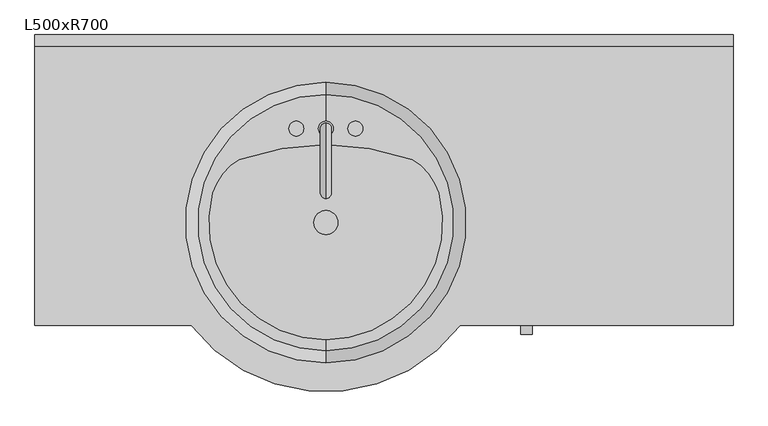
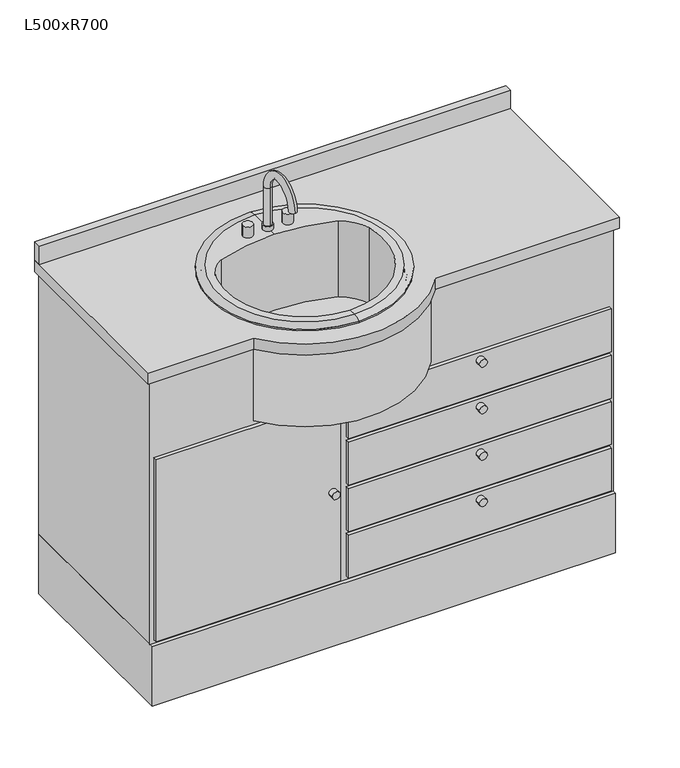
"""IFC4 building model written with IfcOpenShell, lengths in millimetres: furniture geometry, Gabinete Banheiro Vanity 2621 : L500xR700."""

from ifc_helpers import new_model, si_unit, point, frame, frame_2d, origin, origin_with_axes, place, context, project, spatial, polyline, circle_curve, ellipse_curve, trimmed, segment, composite_curve, outline, extrude, source, transform, mapped, element, save
from ifc_brep_helpers import plane_surface, cylinder_surface, revolved_surface, advanced_brep


def l500xr700_7699340b(model_context):
    return source(origin(), model_context, "Body", "SolidModel", [
        advanced_brep(
        [(94.9377049, -170.6504315, 909.525), (94.9377049, -151.6004315, 909.525), (94.9377049, -170.6504315, 1022.2375), (94.9377049, -151.6004315, 1022.2375), (94.9377049, -262.4406462, 1022.2375), (94.9377049, -281.4906462, 1022.2375)],
        [
            (0, 1, circle_curve(frame((94.9377049, -161.1254315, 909.525), z_axis=(0.0, 0.0, -1.0), x_axis=(0.0, 1.0, 0.0)), 9.525)),
            (1, 0, circle_curve(frame((94.9377049, -161.1254315, 909.525), z_axis=(0.0, 0.0, -1.0), x_axis=(0.0, 1.0, 0.0)), 9.525)),
            (0, 2),
            (2, 3, circle_curve(frame((94.9377049, -161.1254315, 1022.2375), z_axis=(0.0, 0.0, -1.0), x_axis=(0.0, 1.0, 0.0)), 9.525)),
            (3, 1),
            (3, 2, circle_curve(frame((94.9377049, -161.1254315, 1022.2375), z_axis=(0.0, 0.0, -1.0), x_axis=(0.0, 1.0, 0.0)), 9.525)),
            (4, 5, circle_curve(frame((94.9377049, -271.9656462, 1022.2375), z_axis=(0.0, 0.0, -1.0), x_axis=(0.0, -1.0, 0.0)), 9.525)),
            (5, 4, circle_curve(frame((94.9377049, -271.9656462, 1022.2375), z_axis=(0.0, 0.0, -1.0), x_axis=(0.0, -1.0, 0.0)), 9.525)),
            (5, 3, circle_curve(frame((94.9377049, -216.5455388, 1022.2375), z_axis=(-1.0, 0.0, 0.0), x_axis=(0.0, 1.0, 0.0)), 64.9451073)),
            (2, 4, circle_curve(frame((94.9377049, -216.5455388, 1022.2375), z_axis=(1.0, 0.0, 0.0), x_axis=(0.0, 1.0, 0.0)), 45.8951073)),
        ],
        [
            plane_surface(frame((94.9377049, -170.6504315, 909.525), z_axis=(0.0, 0.0, -1.0), x_axis=(1.0, 0.0, 0.0))),
            cylinder_surface(frame((94.9377049, -161.1254315, 909.525), z_axis=(0.0, 0.0, -1.0), x_axis=(0.0, 1.0, 0.0)), 9.525),
            plane_surface(frame((94.9377049, -216.5455388, 1022.2375), z_axis=(0.0, 0.0, -1.0), x_axis=(0.0, -1.0, 0.0))),
            revolved_surface(trimmed(ellipse_curve(frame((94.9377049, -161.1254315, 1022.2375), z_axis=(0.0, 0.0, -1.0), x_axis=(0.0, 1.0, 0.0)), 9.525, 9.525), [point((94.9377049, -170.6504315, 1022.2375))], [point((94.9377049, -151.6004315, 1022.2375))], True, "CARTESIAN"), (94.9377049, -216.5455388, 1022.2375), (1.0, 0.0, 0.0)),
            revolved_surface(trimmed(ellipse_curve(frame((94.9377049, -161.1254315, 1022.2375), z_axis=(0.0, 0.0, -1.0), x_axis=(0.0, 1.0, 0.0)), 9.525, 9.525), [point((94.9377049, -151.6004315, 1022.2375))], [point((94.9377049, -170.6504315, 1022.2375))], True, "CARTESIAN"), (94.9377049, -216.5455388, 1022.2375), (1.0, 0.0, 0.0)),
        ],
        [
            (0, [[1, 2]]),
            (1, [[-1, 3, 4, 5]]),
            (1, [[-2, -5, 6, -3]]),
            (2, [[7, 8]]),
            (3, [[9, -4, 10, -8]]),
            (4, [[-10, -6, -9, -7]]),
        ],
    ),
        extrude(outline(composite_curve([segment(trimmed(circle_curve(frame_2d((94.9377049, -161.1254315)), 12.7), [point((82.2377049, -161.1254315))], [point((107.6377049, -161.1254315))], False, "CARTESIAN"), True, "CONTINUOUS"), segment(trimmed(circle_curve(frame_2d((94.9377049, -161.1254315)), 12.7), [point((107.6377049, -161.1254315))], [point((82.2377049, -161.1254315))], False, "CARTESIAN"), True, "CONTINUOUS")], self_intersect=False)), frame((0.0, 0.0, 909.525), z_axis=(0.0, 0.0, 1.0), x_axis=(1.0, 0.0, 0.0)), (0.0, 0.0, 1.0), 12.2352909),
        extrude(outline(composite_curve([segment(trimmed(circle_curve(frame_2d((44.1377049, -161.1254315)), 12.7), [point((31.4377049, -161.1254315))], [point((56.8377049, -161.1254315))], False, "CARTESIAN"), True, "CONTINUOUS"), segment(trimmed(circle_curve(frame_2d((44.1377049, -161.1254315)), 12.7), [point((56.8377049, -161.1254315))], [point((31.4377049, -161.1254315))], False, "CARTESIAN"), True, "CONTINUOUS")], self_intersect=False)), frame((0.0, 0.0, 909.525), z_axis=(0.0, 0.0, 1.0), x_axis=(1.0, 0.0, 0.0)), (0.0, 0.0, 1.0), 28.575),
        extrude(outline(composite_curve([segment(trimmed(circle_curve(frame_2d((145.7377049, -161.1254315)), 12.7), [point((133.0377049, -161.1254315))], [point((158.4377049, -161.1254315))], False, "CARTESIAN"), True, "CONTINUOUS"), segment(trimmed(circle_curve(frame_2d((145.7377049, -161.1254315)), 12.7), [point((158.4377049, -161.1254315))], [point((133.0377049, -161.1254315))], False, "CARTESIAN"), True, "CONTINUOUS")], self_intersect=False)), frame((0.0, 0.0, 909.525), z_axis=(0.0, 0.0, 1.0), x_axis=(1.0, 0.0, 0.0)), (0.0, 0.0, 1.0), 28.575),
        extrude(outline(composite_curve([segment(trimmed(circle_curve(frame_2d((94.9377049, -323.0504315)), 20.6375), [point((74.3002049, -323.0504315))], [point((115.5752049, -323.0504315))], False, "CARTESIAN"), True, "CONTINUOUS"), segment(trimmed(circle_curve(frame_2d((94.9377049, -323.0504315)), 20.6375), [point((115.5752049, -323.0504315))], [point((74.3002049, -323.0504315))], False, "CARTESIAN"), True, "CONTINUOUS")], self_intersect=False)), frame((0.0, 0.0, 684.1), z_axis=(0.0, 0.0, 1.0), x_axis=(1.0, 0.0, 0.0)), (0.0, 0.0, 1.0), 21.1842611),
        advanced_brep(
        [(94.9377049, -543.6051593, 909.525), (94.9377049, -102.4957037, 909.525), (94.9377049, -81.7504315, 903.96875), (94.9377049, -564.3504315, 903.96875), (94.9377049, -524.4587205, 909.525), (-99.884377, -271.9656462, 909.525), (-53.8675289, -214.1320102, 909.525), (94.9377049, -188.9519451, 909.525), (243.7429387, -214.1320102, 909.525), (289.7597868, -271.9656462, 909.525), (94.9377049, -515.3445528, 684.1), (94.9377049, -130.7563102, 684.1), (94.9377049, -323.0504315, 684.1), (94.9377049, -535.9008861, 705.2842611), (94.9377049, -110.1999769, 705.2842611), (94.9377049, -552.4441815, 900.0), (94.9377049, -93.6566815, 900.0), (94.9377049, -564.3504315, 900.0), (94.9377049, -81.7504315, 900.0), (243.7429387, -214.1320102, 705.2842611), (-53.8675289, -214.1320102, 705.2842611), (-99.884377, -271.9656462, 705.2842611), (289.7597868, -271.9656462, 705.2842611)],
        [
            (0, 1, circle_curve(frame((94.9377049, -323.0504315, 909.525), z_axis=(0.0, 0.0, -1.0), x_axis=(0.0, 1.0, 0.0)), 220.5547278)),
            (1, 2, circle_curve(frame((94.9377049, -98.7806884, 881.889434), z_axis=(-1.0, 0.0, 0.0), x_axis=(0.0, 1.0, 0.0)), 27.8841505)),
            (2, 3, circle_curve(frame((94.9377049, -323.0504315, 903.96875), z_axis=(0.0, 0.0, 1.0), x_axis=(0.0, 1.0, 0.0)), 241.3)),
            (3, 0, circle_curve(frame((94.9377049, -547.3201745, 881.889434), z_axis=(-1.0, 0.0, 0.0), x_axis=(0.0, -1.0, 0.0)), 27.8841505)),
            (1, 0, circle_curve(frame((94.9377049, -323.0504315, 909.525), z_axis=(0.0, 0.0, -1.0), x_axis=(0.0, 1.0, 0.0)), 220.5547278)),
            (3, 2, circle_curve(frame((94.9377049, -323.0504315, 903.96875), z_axis=(0.0, 0.0, 1.0), x_axis=(0.0, 1.0, 0.0)), 241.3)),
            (0, 4),
            (4, 5, circle_curve(frame((94.9377049, -323.0504315, 909.525), z_axis=(0.0, 0.0, -1.0), x_axis=(1.0, 0.0, 0.0)), 201.408289)),
            (5, 6, circle_curve(frame((-0.3450667, -303.9426335, 909.525), z_axis=(0.0, 0.0, -1.0), x_axis=(1.0, 0.0, 0.0)), 104.5495194)),
            (6, 7, circle_curve(frame((94.9377049, -641.2349961, 909.525), z_axis=(0.0, 0.0, -1.0), x_axis=(1.0, 0.0, 0.0)), 452.283051)),
            (7, 1),
            (7, 8, circle_curve(frame((94.9377049, -641.2349961, 909.525), z_axis=(0.0, 0.0, -1.0), x_axis=(1.0, 0.0, 0.0)), 452.283051)),
            (8, 9, circle_curve(frame((190.2204765, -303.9426335, 909.525), z_axis=(0.0, 0.0, -1.0), x_axis=(1.0, 0.0, 0.0)), 104.5495194)),
            (9, 4, circle_curve(frame((94.9377049, -323.0504315, 909.525), z_axis=(0.0, 0.0, -1.0), x_axis=(1.0, 0.0, 0.0)), 201.408289)),
            (10, 11, circle_curve(frame((94.9377049, -323.0504315, 684.1), z_axis=(0.0, 0.0, -1.0), x_axis=(0.0, 1.0, 0.0)), 192.2941213)),
            (11, 12),
            (12, 10),
            (11, 10, circle_curve(frame((94.9377049, -323.0504315, 684.1), z_axis=(0.0, 0.0, -1.0), x_axis=(0.0, 1.0, 0.0)), 192.2941213)),
            (10, 13, circle_curve(frame((94.9377049, -515.3445528, 704.6656396), z_axis=(-1.0, 0.0, 0.0), x_axis=(0.0, -1.0, 0.0)), 20.5656396)),
            (13, 14, circle_curve(frame((94.9377049, -323.0504315, 705.2842611), z_axis=(0.0, 0.0, -1.0), x_axis=(0.0, 1.0, 0.0)), 212.8504546)),
            (14, 11, circle_curve(frame((94.9377049, -130.7563102, 704.6656396), z_axis=(-1.0, 0.0, 0.0), x_axis=(0.0, 1.0, 0.0)), 20.5656396)),
            (14, 13, circle_curve(frame((94.9377049, -323.0504315, 705.2842611), z_axis=(0.0, 0.0, -1.0), x_axis=(0.0, 1.0, 0.0)), 212.8504546)),
            (13, 15),
            (15, 16, circle_curve(frame((94.9377049, -323.0504315, 900.0), z_axis=(0.0, 0.0, -1.0), x_axis=(0.0, 1.0, 0.0)), 229.39375)),
            (16, 14),
            (16, 15, circle_curve(frame((94.9377049, -323.0504315, 900.0), z_axis=(0.0, 0.0, -1.0), x_axis=(0.0, 1.0, 0.0)), 229.39375)),
            (15, 17),
            (17, 18, circle_curve(frame((94.9377049, -323.0504315, 900.0), z_axis=(0.0, 0.0, -1.0), x_axis=(0.0, 1.0, 0.0)), 241.3)),
            (18, 16),
            (18, 17, circle_curve(frame((94.9377049, -323.0504315, 900.0), z_axis=(0.0, 0.0, -1.0), x_axis=(0.0, 1.0, 0.0)), 241.3)),
            (2, 18),
            (17, 3),
            (19, 20, circle_curve(frame((94.9377049, -641.2349961, 705.2842611), z_axis=(0.0, 0.0, 1.0), x_axis=(1.0, 0.0, 0.0)), 452.283051)),
            (20, 21, circle_curve(frame((-0.3450667, -303.9426335, 705.2842611), z_axis=(0.0, 0.0, 1.0), x_axis=(1.0, 0.0, 0.0)), 104.5495194)),
            (21, 22, circle_curve(frame((94.9377049, -323.0504315, 705.2842611), z_axis=(0.0, 0.0, 1.0), x_axis=(1.0, 0.0, 0.0)), 201.408289)),
            (22, 19, circle_curve(frame((190.2204765, -303.9426335, 705.2842611), z_axis=(0.0, 0.0, 1.0), x_axis=(1.0, 0.0, 0.0)), 104.5495194)),
            (19, 8),
            (6, 20),
            (5, 21),
            (9, 22),
        ],
        [
            revolved_surface(trimmed(ellipse_curve(frame((94.9377049, -98.7806884, 881.889434), z_axis=(1.0, 0.0, 0.0), x_axis=(0.0, 1.0, 0.0)), 27.8841505, 27.8841505), [point((94.9377049, -81.7504315, 903.96875))], [point((94.9377049, -102.4957037, 909.525))], True, "CARTESIAN"), (94.9377049, -323.0504315, 909.525), (0.0, 0.0, 1.0)),
            plane_surface(frame((94.9377049, -323.0504315, 909.525), z_axis=(0.0, 0.0, 1.0), x_axis=(0.0, 1.0, 0.0))),
            plane_surface(frame((94.9377049, -323.0504315, 684.1), z_axis=(0.0, 0.0, -1.0), x_axis=(0.0, 1.0, 0.0))),
            revolved_surface(trimmed(ellipse_curve(frame((94.9377049, -130.7563102, 704.6656396), z_axis=(1.0, 0.0, 0.0), x_axis=(0.0, 1.0, 0.0)), 20.5656396, 20.5656396), [point((94.9377049, -130.7563102, 684.1))], [point((94.9377049, -110.1999769, 705.2842611))], True, "CARTESIAN"), (94.9377049, -323.0504315, 909.525), (0.0, 0.0, 1.0)),
            revolved_surface(polyline([(94.9377049, -110.1999769, 705.2842611), (94.9377049, -93.6566815, 900.0)]), (94.9377049, -323.0504315, 909.525), (0.0, 0.0, 1.0)),
            plane_surface(frame((94.9377049, -323.0504315, 900.0), z_axis=(0.0, 0.0, -1.0), x_axis=(0.0, 1.0, 0.0))),
            cylinder_surface(frame((94.9377049, -323.0504315, 909.525), z_axis=(0.0, 0.0, 1.0), x_axis=(0.0, 1.0, 0.0)), 241.3),
            plane_surface(frame((547.2207559, -641.2349961, 705.2842611), z_axis=(0.0, 0.0, 1.0), x_axis=(0.0, -1.0, 0.0))),
            revolved_surface(polyline([(547.2207559, -641.2349961, 909.525), (547.2207559, -641.2349961, 705.2842611)]), (94.9377049, -641.2349961, 705.2842611), (0.0, 0.0, 1.0)),
            revolved_surface(polyline([(104.20445269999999, -303.9426335, 909.525), (104.20445269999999, -303.9426335, 705.2842611)]), (-0.3450667, -303.9426335, 705.2842611), (0.0, 0.0, 1.0)),
            revolved_surface(polyline([(296.3459939, -323.0504315, 909.525), (296.3459939, -323.0504315, 705.2842611)]), (94.9377049, -323.0504315, 705.2842611), (0.0, 0.0, 1.0)),
            revolved_surface(polyline([(294.76999589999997, -303.9426335, 909.525), (294.76999589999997, -303.9426335, 705.2842611)]), (190.2204765, -303.9426335, 705.2842611), (0.0, 0.0, 1.0)),
        ],
        [
            (0, [[1, 2, 3, 4]]),
            (0, [[-2, 5, -4, 6]]),
            (1, [[-1, 7, 8, 9, 10, 11]]),
            (1, [[-5, -11, 12, 13, 14, -7]]),
            (2, [[15, 16, 17]]),
            (2, [[-16, 18, -17]]),
            (3, [[-15, 19, 20, 21]]),
            (3, [[-18, -21, 22, -19]]),
            (4, [[-20, 23, 24, 25]]),
            (4, [[-22, -25, 26, -23]]),
            (5, [[-24, 27, 28, 29]]),
            (5, [[-26, -29, 30, -27]]),
            (6, [[-3, 31, -28, 32]]),
            (6, [[-6, -32, -30, -31]]),
            (7, [[33, 34, 35, 36]]),
            (8, [[-33, 37, -12, -10, 38]]),
            (9, [[-34, -38, -9, 39]]),
            (10, [[-35, -39, -8, -14, 40]]),
            (11, [[-36, -40, -13, -37]]),
        ],
    ),
        extrude(outline(composite_curve([segment(trimmed(circle_curve(frame_2d((640.0, 439.9377049)), 10.0), [point((640.0, 429.9377049))], [point((640.0, 449.9377049))], False, "CARTESIAN"), True, "CONTINUOUS"), segment(trimmed(circle_curve(frame_2d((640.0, 439.9377049)), 10.0), [point((640.0, 449.9377049))], [point((640.0, 429.9377049))], False, "CARTESIAN"), True, "CONTINUOUS")], self_intersect=False)), frame((0.0, -515.0, 0.0), z_axis=(0.0, 1.0, 0.0), x_axis=(0.0, 0.0, 1.0)), (0.0, 0.0, 1.0), 15.0),
        extrude(outline(composite_curve([segment(trimmed(circle_curve(frame_2d((515.0, 439.9377049)), 10.0), [point((515.0, 429.9377049))], [point((515.0, 449.9377049))], False, "CARTESIAN"), True, "CONTINUOUS"), segment(trimmed(circle_curve(frame_2d((515.0, 439.9377049)), 10.0), [point((515.0, 449.9377049))], [point((515.0, 429.9377049))], False, "CARTESIAN"), True, "CONTINUOUS")], self_intersect=False)), frame((0.0, -515.0, 0.0), z_axis=(0.0, 1.0, 0.0), x_axis=(0.0, 0.0, 1.0)), (0.0, 0.0, 1.0), 15.0),
        extrude(outline(composite_curve([segment(trimmed(circle_curve(frame_2d((390.0, 439.9377049)), 10.0), [point((390.0, 429.9377049))], [point((390.0, 449.9377049))], False, "CARTESIAN"), True, "CONTINUOUS"), segment(trimmed(circle_curve(frame_2d((390.0, 439.9377049)), 10.0), [point((390.0, 449.9377049))], [point((390.0, 429.9377049))], False, "CARTESIAN"), True, "CONTINUOUS")], self_intersect=False)), frame((0.0, -515.0, 0.0), z_axis=(0.0, 1.0, 0.0), x_axis=(0.0, 0.0, 1.0)), (0.0, 0.0, 1.0), 15.0),
        extrude(outline(composite_curve([segment(polyline([(794.9377049, 0.0), (794.9377049, -500.0), (326.334637, -500.0)]), True, "CONTINUOUS"), segment(trimmed(circle_curve(frame_2d((94.9377049, -323.0504315)), 291.3), [point((326.334637, -500.0))], [point((-136.4592272, -500.0))], False, "CARTESIAN"), True, "CONTINUOUS"), segment(polyline([(-136.4592272, -500.0), (-405.0622951, -500.0), (-405.0622951, 0.0), (794.9377049, 0.0)]), True, "CONTINUOUS")], self_intersect=False), holes=[composite_curve([segment(trimmed(circle_curve(frame_2d((94.9377049, -323.0504315)), 220.5547278), [point((94.9377049, -102.4957037))], [point((94.9377049, -543.6051593))], True, "CARTESIAN"), True, "CONTINUOUS"), segment(trimmed(circle_curve(frame_2d((94.9377049, -323.0504315)), 220.5547278), [point((94.9377049, -543.6051593))], [point((94.9377049, -102.4957037))], True, "CARTESIAN"), True, "CONTINUOUS")], self_intersect=False)]), frame((0.0, 0.0, 870.0), z_axis=(0.0, 0.0, 1.0), x_axis=(1.0, 0.0, 0.0)), (0.0, 0.0, 1.0), 30.0),
        extrude(outline(composite_curve([segment(trimmed(circle_curve(frame_2d((265.0, 439.9377049)), 10.0), [point((265.0, 429.9377049))], [point((265.0, 449.9377049))], False, "CARTESIAN"), True, "CONTINUOUS"), segment(trimmed(circle_curve(frame_2d((265.0, 439.9377049)), 10.0), [point((265.0, 449.9377049))], [point((265.0, 429.9377049))], False, "CARTESIAN"), True, "CONTINUOUS")], self_intersect=False)), frame((0.0, -515.0, 0.0), z_axis=(0.0, 1.0, 0.0), x_axis=(0.0, 0.0, 1.0)), (0.0, 0.0, 1.0), 15.0),
        extrude(outline(composite_curve([segment(trimmed(circle_curve(frame_2d((415.0, 64.9377049)), 10.0), [point((415.0, 74.9377049))], [point((415.0, 54.9377049))], False, "CARTESIAN"), True, "CONTINUOUS"), segment(trimmed(circle_curve(frame_2d((415.0, 64.9377049)), 10.0), [point((415.0, 54.9377049))], [point((415.0, 74.9377049))], False, "CARTESIAN"), True, "CONTINUOUS")], self_intersect=False)), frame((0.0, -515.0, 0.0), z_axis=(0.0, 1.0, 0.0), x_axis=(0.0, 0.0, 1.0)), (0.0, 0.0, 1.0), 15.0),
        extrude(outline(polyline([(774.9377049, -500.0), (104.9377049, -500.0), (104.9377049, -490.0), (774.9377049, -490.0), (774.9377049, -500.0)])), frame((0.0, 0.0, 170.0), z_axis=(0.0, 0.0, 1.0), x_axis=(1.0, 0.0, 0.0)), (0.0, 0.0, 1.0), 115.0),
        extrude(outline(polyline([(84.9377049, -500.0), (-385.0622951, -500.0), (-385.0622951, -490.0), (84.9377049, -490.0), (84.9377049, -500.0)])), frame((0.0, 0.0, 170.0), z_axis=(0.0, 0.0, 1.0), x_axis=(1.0, 0.0, 0.0)), (0.0, 0.0, 1.0), 490.0),
        extrude(outline(polyline([(774.9377049, -500.0), (104.9377049, -500.0), (104.9377049, -490.0), (774.9377049, -490.0), (774.9377049, -500.0)])), frame((0.0, 0.0, 545.0), z_axis=(0.0, 0.0, 1.0), x_axis=(1.0, 0.0, 0.0)), (0.0, 0.0, 1.0), 115.0),
        extrude(outline(polyline([(774.9377049, -500.0), (104.9377049, -500.0), (104.9377049, -490.0), (774.9377049, -490.0), (774.9377049, -500.0)])), frame((0.0, 0.0, 420.0), z_axis=(0.0, 0.0, 1.0), x_axis=(1.0, 0.0, 0.0)), (0.0, 0.0, 1.0), 115.0),
        extrude(outline(polyline([(774.9377049, -500.0), (104.9377049, -500.0), (104.9377049, -490.0), (774.9377049, -490.0), (774.9377049, -500.0)])), frame((0.0, 0.0, 295.0), z_axis=(0.0, 0.0, 1.0), x_axis=(1.0, 0.0, 0.0)), (0.0, 0.0, 1.0), 115.0),
        extrude(outline(polyline([(784.9377049, 0.0), (784.9377049, -500.0), (-395.0622951, -500.0), (-395.0622951, 0.0), (784.9377049, 0.0)])), origin_with_axes(), (0.0, 0.0, 1.0), 160.0),
        advanced_brep(
        [(321.3389672, -490.0, 670.0), (-131.4635574, -490.0, 670.0), (321.3389672, -490.0, 870.0), (784.9377049, -490.0, 870.0), (784.9377049, 0.0, 870.0), (-395.0622951, 0.0, 870.0), (-395.0622951, -490.0, 870.0), (-131.4635574, -490.0, 870.0), (316.2305492, -480.0, 870.0), (-126.3551394, -480.0, 870.0), (-385.0622951, -480.0, 870.0), (-385.0622951, -10.0, 870.0), (774.9377049, -10.0, 870.0), (774.9377049, -480.0, 870.0), (-395.0622951, -490.0, 160.0), (784.9377049, -490.0, 160.0), (-395.0622951, 0.0, 160.0), (784.9377049, 0.0, 160.0), (-126.3551394, -480.0, 680.0), (316.2305492, -480.0, 680.0), (774.9377049, -480.0, 160.0), (-385.0622951, -480.0, 160.0), (774.9377049, -10.0, 160.0), (-385.0622951, -10.0, 160.0)],
        [
            (0, 1, circle_curve(frame((94.9377049, -323.0504315, 670.0), z_axis=(0.0, 0.0, -1.0), x_axis=(0.0, -1.0, 0.0)), 281.3)),
            (1, 0),
            (2, 3),
            (3, 4),
            (4, 5),
            (5, 6),
            (6, 7),
            (7, 2, circle_curve(frame((94.9377049, -323.0504315, 870.0), z_axis=(0.0, 0.0, 1.0), x_axis=(0.0, -1.0, 0.0)), 281.3)),
            (8, 9, circle_curve(frame((94.9377049, -323.0504315, 870.0), z_axis=(0.0, 0.0, -1.0), x_axis=(0.0, -1.0, 0.0)), 271.3)),
            (9, 10),
            (10, 11),
            (11, 12),
            (12, 13),
            (13, 8),
            (0, 2),
            (7, 1),
            (6, 14),
            (14, 15),
            (15, 3),
            (5, 16),
            (16, 14),
            (4, 17),
            (17, 16),
            (15, 17),
            (9, 18),
            (18, 19),
            (19, 8),
            (13, 20),
            (20, 21),
            (21, 10),
            (12, 22),
            (22, 20),
            (11, 23),
            (23, 22),
            (21, 23),
            (19, 18, circle_curve(frame((94.9377049, -323.0504315, 680.0), z_axis=(0.0, 0.0, -1.0), x_axis=(0.0, -1.0, 0.0)), 271.3)),
        ],
        [
            plane_surface(frame((94.9377049, -604.3504315, 670.0), z_axis=(0.0, 0.0, -1.0), x_axis=(-1.0, 0.0, 0.0))),
            plane_surface(frame((94.9377049, -604.3504315, 870.0), z_axis=(0.0, 0.0, 1.0), x_axis=(1.0, 0.0, 0.0))),
            cylinder_surface(frame((94.9377049, -323.0504315, 870.0), z_axis=(0.0, 0.0, -1.0), x_axis=(0.0, -1.0, 0.0)), 281.3),
            plane_surface(frame((-131.4635574, -490.0, 670.0), z_axis=(0.0, -1.0, 0.0), x_axis=(0.0, 0.0, 1.0))),
            plane_surface(frame((-395.0622951, -490.0, 670.0), z_axis=(-1.0, 0.0, 0.0), x_axis=(0.0, 0.0, 1.0))),
            plane_surface(frame((-395.0622951, 0.0, 670.0), z_axis=(0.0, 1.0, 0.0), x_axis=(0.0, 0.0, 1.0))),
            plane_surface(frame((784.9377049, 0.0, 670.0), z_axis=(1.0, 0.0, 0.0), x_axis=(0.0, 0.0, 1.0))),
            plane_surface(frame((316.2305492, -480.0, 670.0), z_axis=(0.0, 1.0, 0.0), x_axis=(0.0, 0.0, 1.0))),
            plane_surface(frame((774.9377049, -480.0, 670.0), z_axis=(-1.0, 0.0, 0.0), x_axis=(0.0, 0.0, 1.0))),
            plane_surface(frame((774.9377049, -10.0, 670.0), z_axis=(0.0, -1.0, 0.0), x_axis=(0.0, 0.0, 1.0))),
            plane_surface(frame((-385.0622951, -10.0, 670.0), z_axis=(1.0, 0.0, 0.0), x_axis=(0.0, 0.0, 1.0))),
            revolved_surface(polyline([(94.9377049, -594.3504315, 870.0), (94.9377049, -594.3504315, 680.0)]), (94.9377049, -323.0504315, 870.0), (0.0, 0.0, 1.0)),
            plane_surface(frame((366.2377049, -323.0504315, 680.0), z_axis=(0.0, 0.0, 1.0), x_axis=(0.0, 1.0, 0.0))),
            plane_surface(frame((-395.0622951, 0.0, 160.0), z_axis=(0.0, 0.0, -1.0), x_axis=(1.0, 0.0, 0.0))),
        ],
        [
            (0, [[1, 2]]),
            (1, [[3, 4, 5, 6, 7, 8], [9, 10, 11, 12, 13, 14]]),
            (2, [[-1, 15, -8, 16]]),
            (3, [[-7, 17, 18, 19, -3, -15, -2, -16]]),
            (4, [[-17, -6, 20, 21]]),
            (5, [[-20, -5, 22, 23]]),
            (6, [[-22, -4, -19, 24]]),
            (7, [[-10, 25, 26, 27, -14, 28, 29, 30]]),
            (8, [[-28, -13, 31, 32]]),
            (9, [[-31, -12, 33, 34]]),
            (10, [[-33, -11, -30, 35]]),
            (11, [[-9, -27, 36, -25]]),
            (12, [[-26, -36]]),
            (13, [[-23, -24, -18, -21], [-35, -29, -32, -34]]),
        ],
    ),
        extrude(outline(polyline([(-405.0622951, -19.05), (-405.0622951, 0.0), (794.9377049, 0.0), (794.9377049, -19.05), (-405.0622951, -19.05)])), frame((0.0, 0.0, 900.0), z_axis=(0.0, 0.0, 1.0), x_axis=(1.0, 0.0, 0.0)), (0.0, 0.0, 1.0), 50.0),
    ])


if __name__ == "__main__":
    model = new_model("IFC4")
    model_context = context("Model", 3, world=origin())
    ifc_project = project(units=[si_unit("LENGTHUNIT", "METRE", prefix="MILLI")], contexts=[model_context])
    site = spatial("IfcSite", under=ifc_project)
    building = spatial("IfcBuilding", under=site)
    placement = place(None, origin())
    l500xr700_shape = l500xr700_7699340b(model_context)
    element("IfcFurniture", 1, ObjectType="Gabinete Banheiro Vanity 2621 : L500xR700", at=placement, inside=building, context=model_context, shape_type="MappedRepresentation", body=[
        mapped(l500xr700_shape, transform((0.0, 0.0, 0.0), x_axis=(1.0, 0.0, 0.0), y_axis=(0.0, 1.0, 0.0), z_axis=(0.0, 0.0, 1.0))),
    ])
    save(model, "model.ifc")
